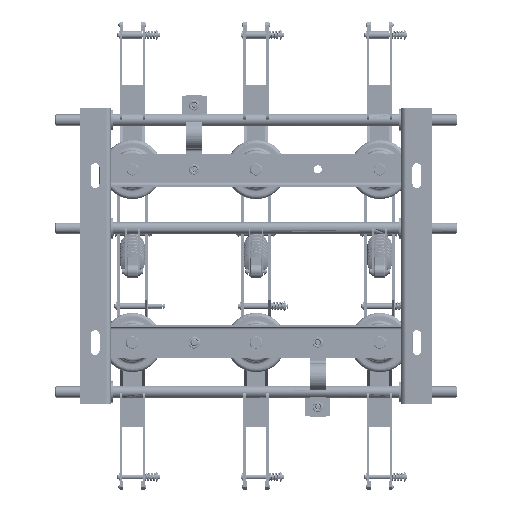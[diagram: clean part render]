
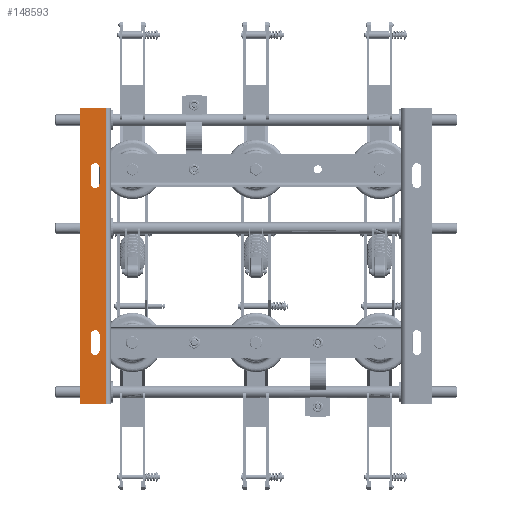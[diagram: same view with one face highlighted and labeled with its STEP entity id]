
A CAD part, front view. The second image highlights one B-rep face of the part: STEP entity #148593.
In plain terms, the highlighted planar face has unit normal (0, -1, 0).
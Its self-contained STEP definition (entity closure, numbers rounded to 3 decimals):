
#1385 = LINE ( 'NONE', #60443, #162901 ) ;
#2065 = LINE ( 'NONE', #22262, #99718 ) ;
#2959 = ORIENTED_EDGE ( 'NONE', *, *, #128311, .T. ) ;
#3676 = LINE ( 'NONE', #22181, #67453 ) ;
#6520 = ORIENTED_EDGE ( 'NONE', *, *, #102087, .T. ) ;
#11425 = CARTESIAN_POINT ( 'NONE',  ( -252.999, 0.004, -122.003 ) ) ;
#12533 = FACE_OUTER_BOUND ( 'NONE', #41464, .T. ) ;
#15263 = EDGE_CURVE ( 'NONE', #117417, #65590, #122774, .T. ) ;
#17098 = CARTESIAN_POINT ( 'NONE',  ( -286.199, 0.004, 4.979 ) ) ;
#20848 = EDGE_CURVE ( 'NONE', #65255, #88579, #155086, .T. ) ;
#21831 = ORIENTED_EDGE ( 'NONE', *, *, #72724, .T. ) ;
#22181 = CARTESIAN_POINT ( 'NONE',  ( -284.999, 0.004, 244.979 ) ) ;
#22262 = CARTESIAN_POINT ( 'NONE',  ( -252.999, 0.004, 147.997 ) ) ;
#27282 = CARTESIAN_POINT ( 'NONE',  ( -259.999, 0.004, -122.003 ) ) ;
#27874 = VERTEX_POINT ( 'NONE', #159273 ) ;
#28041 = VECTOR ( 'NONE', #58738, 1000. ) ;
#28645 = VERTEX_POINT ( 'NONE', #164265 ) ;
#29941 = DIRECTION ( 'NONE',  ( 1., 0., 0. ) ) ;
#32965 = CARTESIAN_POINT ( 'NONE',  ( -259.999, 0.004, 121.997 ) ) ;
#34105 = EDGE_CURVE ( 'NONE', #110473, #27874, #3676, .T. ) ;
#35021 = CARTESIAN_POINT ( 'NONE',  ( -259.999, 0.004, -148.003 ) ) ;
#36570 = AXIS2_PLACEMENT_3D ( 'NONE', #53161, #142410, #65954 ) ;
#40055 = DIRECTION ( 'NONE',  ( -1., 0., 0. ) ) ;
#41464 = EDGE_LOOP ( 'NONE', ( #146958, #151628, #134973, #118845 ) ) ;
#42175 = PLANE ( 'NONE',  #54036 ) ;
#45799 = DIRECTION ( 'NONE',  ( 1., 0., 0. ) ) ;
#46362 = FACE_BOUND ( 'NONE', #81590, .T. ) ;
#47188 = VECTOR ( 'NONE', #65886, 1000. ) ;
#47814 = DIRECTION ( 'NONE',  ( 1., 0., 0. ) ) ;
#47984 = VECTOR ( 'NONE', #48834, 1000. ) ;
#48834 = DIRECTION ( 'NONE',  ( 0., 0., -1. ) ) ;
#51216 = LINE ( 'NONE', #66423, #47188 ) ;
#53161 = CARTESIAN_POINT ( 'NONE',  ( -259.999, 0.004, 147.997 ) ) ;
#54036 = AXIS2_PLACEMENT_3D ( 'NONE', #17098, #106269, #29941 ) ;
#54620 = EDGE_CURVE ( 'NONE', #107493, #110473, #125750, .T. ) ;
#58024 = AXIS2_PLACEMENT_3D ( 'NONE', #27282, #116424, #40055 ) ;
#58738 = DIRECTION ( 'NONE',  ( 0., 0., 1. ) ) ;
#60443 = CARTESIAN_POINT ( 'NONE',  ( -266.999, 0.004, -148.003 ) ) ;
#61095 = EDGE_CURVE ( 'NONE', #96678, #143562, #147534, .T. ) ;
#65255 = VERTEX_POINT ( 'NONE', #162170 ) ;
#65590 = VERTEX_POINT ( 'NONE', #11425 ) ;
#65886 = DIRECTION ( 'NONE',  ( -1., 0., 0. ) ) ;
#65954 = DIRECTION ( 'NONE',  ( -1., 0., 0. ) ) ;
#66423 = CARTESIAN_POINT ( 'NONE',  ( -242.995, 0.004, -235.021 ) ) ;
#66501 = LINE ( 'NONE', #73466, #122321 ) ;
#67453 = VECTOR ( 'NONE', #73480, 1000. ) ;
#71331 = CARTESIAN_POINT ( 'NONE',  ( -266.999, 0.004, 121.997 ) ) ;
#72724 = EDGE_CURVE ( 'NONE', #88351, #28645, #122249, .T. ) ;
#73288 = DIRECTION ( 'NONE',  ( 0., 0., 1. ) ) ;
#73466 = CARTESIAN_POINT ( 'NONE',  ( -242.995, 0.004, -235.021 ) ) ;
#73480 = DIRECTION ( 'NONE',  ( 1., 0., 0. ) ) ;
#77080 = AXIS2_PLACEMENT_3D ( 'NONE', #35021, #124213, #47814 ) ;
#77867 = CARTESIAN_POINT ( 'NONE',  ( -242.995, 0.004, -235.021 ) ) ;
#78248 = EDGE_CURVE ( 'NONE', #135062, #107493, #51216, .T. ) ;
#81590 = EDGE_LOOP ( 'NONE', ( #98492, #2959, #21831, #121924 ) ) ;
#88351 = VERTEX_POINT ( 'NONE', #90430 ) ;
#88579 = VERTEX_POINT ( 'NONE', #71331 ) ;
#90430 = CARTESIAN_POINT ( 'NONE',  ( -266.999, 0.004, 147.997 ) ) ;
#96678 = VERTEX_POINT ( 'NONE', #145182 ) ;
#98492 = ORIENTED_EDGE ( 'NONE', *, *, #20848, .T. ) ;
#99556 = ORIENTED_EDGE ( 'NONE', *, *, #15263, .T. ) ;
#99718 = VECTOR ( 'NONE', #161695, 1000. ) ;
#100213 = EDGE_CURVE ( 'NONE', #65590, #96678, #115823, .T. ) ;
#102087 = EDGE_CURVE ( 'NONE', #143562, #117417, #1385, .T. ) ;
#102940 = ORIENTED_EDGE ( 'NONE', *, *, #100213, .T. ) ;
#106269 = DIRECTION ( 'NONE',  ( 0., 1., 0. ) ) ;
#107175 = EDGE_CURVE ( 'NONE', #135062, #27874, #66501, .T. ) ;
#107493 = VERTEX_POINT ( 'NONE', #157011 ) ;
#110206 = FACE_BOUND ( 'NONE', #155473, .T. ) ;
#110473 = VERTEX_POINT ( 'NONE', #120454 ) ;
#111141 = EDGE_CURVE ( 'NONE', #28645, #65255, #2065, .T. ) ;
#113655 = AXIS2_PLACEMENT_3D ( 'NONE', #32965, #122151, #45799 ) ;
#114599 = CARTESIAN_POINT ( 'NONE',  ( -252.999, 0.004, -122.003 ) ) ;
#115823 = LINE ( 'NONE', #114599, #47984 ) ;
#116424 = DIRECTION ( 'NONE',  ( 0., 1., 0. ) ) ;
#117417 = VERTEX_POINT ( 'NONE', #124036 ) ;
#118845 = ORIENTED_EDGE ( 'NONE', *, *, #78248, .F. ) ;
#120454 = CARTESIAN_POINT ( 'NONE',  ( -284.999, 0.004, 244.979 ) ) ;
#121924 = ORIENTED_EDGE ( 'NONE', *, *, #111141, .T. ) ;
#122151 = DIRECTION ( 'NONE',  ( 0., 1., 0. ) ) ;
#122249 = CIRCLE ( 'NONE', #36570, 7. ) ;
#122321 = VECTOR ( 'NONE', #149877, 1000. ) ;
#122774 = CIRCLE ( 'NONE', #58024, 7. ) ;
#124036 = CARTESIAN_POINT ( 'NONE',  ( -266.999, 0.004, -122.003 ) ) ;
#124213 = DIRECTION ( 'NONE',  ( 0., 1., 0. ) ) ;
#125750 = LINE ( 'NONE', #135119, #28041 ) ;
#128311 = EDGE_CURVE ( 'NONE', #88579, #88351, #163135, .T. ) ;
#128517 = CARTESIAN_POINT ( 'NONE',  ( -266.999, 0.004, -148.003 ) ) ;
#129277 = VECTOR ( 'NONE', #145969, 1000. ) ;
#134973 = ORIENTED_EDGE ( 'NONE', *, *, #54620, .F. ) ;
#135062 = VERTEX_POINT ( 'NONE', #77867 ) ;
#135119 = CARTESIAN_POINT ( 'NONE',  ( -284.999, 0.004, -235.021 ) ) ;
#142410 = DIRECTION ( 'NONE',  ( 0., 1., 0. ) ) ;
#143562 = VERTEX_POINT ( 'NONE', #128517 ) ;
#145182 = CARTESIAN_POINT ( 'NONE',  ( -252.999, 0.004, -148.003 ) ) ;
#145969 = DIRECTION ( 'NONE',  ( 0., 0., 1. ) ) ;
#146958 = ORIENTED_EDGE ( 'NONE', *, *, #107175, .T. ) ;
#147534 = CIRCLE ( 'NONE', #77080, 7. ) ;
#148593 = ADVANCED_FACE ( 'NONE', ( #12533, #46362, #110206 ), #42175, .F. ) ;
#149877 = DIRECTION ( 'NONE',  ( 0., 0., 1. ) ) ;
#151628 = ORIENTED_EDGE ( 'NONE', *, *, #34105, .F. ) ;
#155086 = CIRCLE ( 'NONE', #113655, 7. ) ;
#155473 = EDGE_LOOP ( 'NONE', ( #163335, #6520, #99556, #102940 ) ) ;
#157011 = CARTESIAN_POINT ( 'NONE',  ( -284.999, 0.004, -235.021 ) ) ;
#158780 = CARTESIAN_POINT ( 'NONE',  ( -266.999, 0.004, 121.997 ) ) ;
#159273 = CARTESIAN_POINT ( 'NONE',  ( -242.995, 0.004, 244.979 ) ) ;
#161695 = DIRECTION ( 'NONE',  ( 0., 0., -1. ) ) ;
#162170 = CARTESIAN_POINT ( 'NONE',  ( -252.999, 0.004, 121.997 ) ) ;
#162901 = VECTOR ( 'NONE', #73288, 1000. ) ;
#163135 = LINE ( 'NONE', #158780, #129277 ) ;
#163335 = ORIENTED_EDGE ( 'NONE', *, *, #61095, .T. ) ;
#164265 = CARTESIAN_POINT ( 'NONE',  ( -252.999, 0.004, 147.997 ) ) ;
